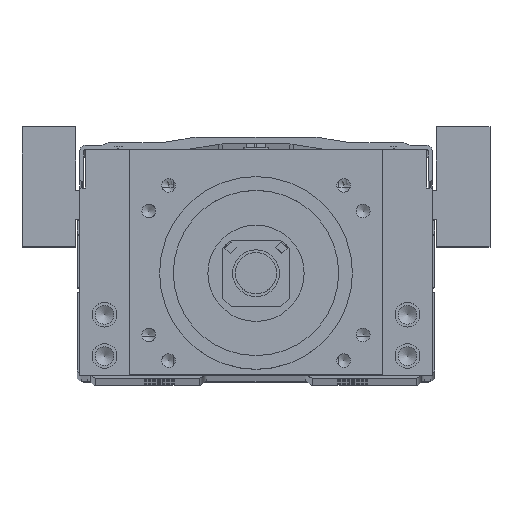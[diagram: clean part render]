
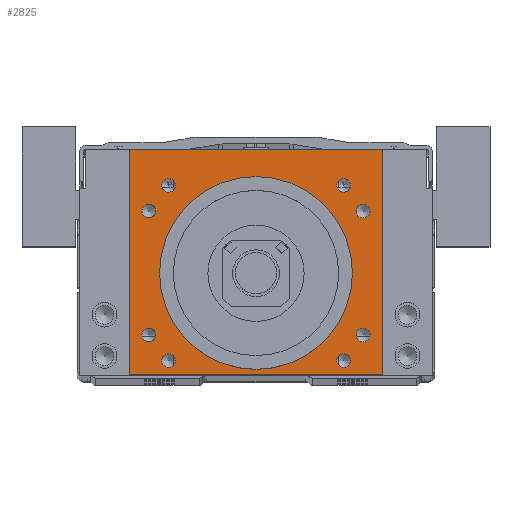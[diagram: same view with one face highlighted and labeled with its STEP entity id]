
A CAD part, top view. The second image highlights one B-rep face of the part: STEP entity #2825.
In plain terms, the highlighted planar face has unit normal (0, 0, 1).
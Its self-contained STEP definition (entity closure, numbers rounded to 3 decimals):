
#2825=ADVANCED_FACE('',(#4618,#4619,#4620,#4621,#4622,#4623,#4624,#4625,
#4626,#4627),#3844,.T.);
#3844=PLANE('',#20425);
#4618=FACE_BOUND('',#5850,.T.);
#4619=FACE_BOUND('',#5851,.T.);
#4620=FACE_BOUND('',#5852,.T.);
#4621=FACE_BOUND('',#5853,.T.);
#4622=FACE_BOUND('',#5854,.T.);
#4623=FACE_BOUND('',#5855,.T.);
#4624=FACE_BOUND('',#5856,.T.);
#4625=FACE_BOUND('',#5857,.T.);
#4626=FACE_BOUND('',#5858,.T.);
#4627=FACE_BOUND('',#5859,.T.);
#5850=EDGE_LOOP('',(#9292,#9293,#9294,#9295));
#5851=EDGE_LOOP('',(#9296));
#5852=EDGE_LOOP('',(#9297));
#5853=EDGE_LOOP('',(#9298));
#5854=EDGE_LOOP('',(#9299));
#5855=EDGE_LOOP('',(#9300));
#5856=EDGE_LOOP('',(#9301));
#5857=EDGE_LOOP('',(#9302));
#5858=EDGE_LOOP('',(#9303));
#5859=EDGE_LOOP('',(#9304));
#7273=CIRCLE('',#20415,35.015);
#7274=CIRCLE('',#20417,2.5);
#7275=CIRCLE('',#20418,2.5);
#7276=CIRCLE('',#20419,2.5);
#7277=CIRCLE('',#20420,2.5);
#7278=CIRCLE('',#20421,2.5);
#7279=CIRCLE('',#20422,2.5);
#7280=CIRCLE('',#20423,2.5);
#7281=CIRCLE('',#20424,2.5);
#9292=ORIENTED_EDGE('',*,*,#15289,.T.);
#9293=ORIENTED_EDGE('',*,*,#14520,.T.);
#9294=ORIENTED_EDGE('',*,*,#15284,.T.);
#9295=ORIENTED_EDGE('',*,*,#15294,.T.);
#9296=ORIENTED_EDGE('',*,*,#15302,.F.);
#9297=ORIENTED_EDGE('',*,*,#15303,.T.);
#9298=ORIENTED_EDGE('',*,*,#15304,.T.);
#9299=ORIENTED_EDGE('',*,*,#15305,.F.);
#9300=ORIENTED_EDGE('',*,*,#15301,.F.);
#9301=ORIENTED_EDGE('',*,*,#15306,.T.);
#9302=ORIENTED_EDGE('',*,*,#15307,.T.);
#9303=ORIENTED_EDGE('',*,*,#15308,.T.);
#9304=ORIENTED_EDGE('',*,*,#15309,.T.);
#12681=VERTEX_POINT('',#27076);
#12682=VERTEX_POINT('',#27078);
#13253=VERTEX_POINT('',#29005);
#13255=VERTEX_POINT('',#29016);
#13261=VERTEX_POINT('',#29040);
#13262=VERTEX_POINT('',#29043);
#13263=VERTEX_POINT('',#29045);
#13264=VERTEX_POINT('',#29047);
#13265=VERTEX_POINT('',#29049);
#13266=VERTEX_POINT('',#29051);
#13267=VERTEX_POINT('',#29053);
#13268=VERTEX_POINT('',#29055);
#13269=VERTEX_POINT('',#29057);
#14520=EDGE_CURVE('',#12682,#12681,#16943,.T.);
#15284=EDGE_CURVE('',#12681,#13253,#17406,.T.);
#15289=EDGE_CURVE('',#13255,#12682,#17411,.T.);
#15294=EDGE_CURVE('',#13253,#13255,#17416,.T.);
#15301=EDGE_CURVE('',#13261,#13261,#7273,.T.);
#15302=EDGE_CURVE('',#13262,#13262,#7274,.T.);
#15303=EDGE_CURVE('',#13263,#13263,#7275,.T.);
#15304=EDGE_CURVE('',#13264,#13264,#7276,.T.);
#15305=EDGE_CURVE('',#13265,#13265,#7277,.T.);
#15306=EDGE_CURVE('',#13266,#13266,#7278,.T.);
#15307=EDGE_CURVE('',#13267,#13267,#7279,.T.);
#15308=EDGE_CURVE('',#13268,#13268,#7280,.T.);
#15309=EDGE_CURVE('',#13269,#13269,#7281,.T.);
#16943=LINE('',#27077,#18392);
#17406=LINE('',#29007,#18855);
#17411=LINE('',#29015,#18860);
#17416=LINE('',#29024,#18865);
#18392=VECTOR('',#21786,1.);
#18855=VECTOR('',#23345,1.);
#18860=VECTOR('',#23356,1.);
#18865=VECTOR('',#23363,1.);
#20415=AXIS2_PLACEMENT_3D('',#29039,#23382,#23383);
#20417=AXIS2_PLACEMENT_3D('',#29042,#23386,#23387);
#20418=AXIS2_PLACEMENT_3D('',#29044,#23388,#23389);
#20419=AXIS2_PLACEMENT_3D('',#29046,#23390,#23391);
#20420=AXIS2_PLACEMENT_3D('',#29048,#23392,#23393);
#20421=AXIS2_PLACEMENT_3D('',#29050,#23394,#23395);
#20422=AXIS2_PLACEMENT_3D('',#29052,#23396,#23397);
#20423=AXIS2_PLACEMENT_3D('',#29054,#23398,#23399);
#20424=AXIS2_PLACEMENT_3D('',#29056,#23400,#23401);
#20425=AXIS2_PLACEMENT_3D('',#29058,#23402,#23403);
#21786=DIRECTION('',(-1.,0.,0.));
#23345=DIRECTION('',(0.,-1.,0.));
#23356=DIRECTION('',(0.,1.,0.));
#23363=DIRECTION('',(1.,0.,0.));
#23382=DIRECTION('',(0.,0.,1.));
#23383=DIRECTION('',(1.,0.,0.));
#23386=DIRECTION('',(0.,0.,1.));
#23387=DIRECTION('',(-1.,0.,0.));
#23388=DIRECTION('',(0.,0.,-1.));
#23389=DIRECTION('',(1.,0.,0.));
#23390=DIRECTION('',(0.,0.,-1.));
#23391=DIRECTION('',(1.,0.,0.));
#23392=DIRECTION('',(0.,0.,1.));
#23393=DIRECTION('',(-1.,0.,0.));
#23394=DIRECTION('',(0.,0.,-1.));
#23395=DIRECTION('',(1.,0.,0.));
#23396=DIRECTION('',(0.,0.,-1.));
#23397=DIRECTION('',(1.,0.,0.));
#23398=DIRECTION('',(0.,0.,-1.));
#23399=DIRECTION('',(1.,0.,0.));
#23400=DIRECTION('',(0.,0.,-1.));
#23401=DIRECTION('',(1.,0.,0.));
#23402=DIRECTION('',(0.,0.,1.));
#23403=DIRECTION('',(-1.,0.,0.));
#27076=CARTESIAN_POINT('',(-46.,83.,100.));
#27077=CARTESIAN_POINT('',(0.,83.,100.));
#27078=CARTESIAN_POINT('',(46.,83.,100.));
#29005=CARTESIAN_POINT('',(-46.,1.,100.));
#29007=CARTESIAN_POINT('',(-46.,38.,100.));
#29015=CARTESIAN_POINT('',(46.,38.,100.));
#29016=CARTESIAN_POINT('',(46.,1.,100.));
#29024=CARTESIAN_POINT('',(0.,1.,100.));
#29039=CARTESIAN_POINT('',(0.,38.,100.));
#29040=CARTESIAN_POINT('',(35.015,38.,100.));
#29042=CARTESIAN_POINT('',(-38.971,15.5,100.));
#29043=CARTESIAN_POINT('',(-41.471,15.5,100.));
#29044=CARTESIAN_POINT('',(38.971,60.5,100.));
#29045=CARTESIAN_POINT('',(41.471,60.5,100.));
#29046=CARTESIAN_POINT('',(38.971,15.5,100.));
#29047=CARTESIAN_POINT('',(41.471,15.5,100.));
#29048=CARTESIAN_POINT('',(-38.971,60.5,100.));
#29049=CARTESIAN_POINT('',(-41.471,60.5,100.));
#29050=CARTESIAN_POINT('',(-31.82,69.82,100.));
#29051=CARTESIAN_POINT('',(-29.32,69.82,100.));
#29052=CARTESIAN_POINT('',(-31.82,6.18,100.));
#29053=CARTESIAN_POINT('',(-29.32,6.18,100.));
#29054=CARTESIAN_POINT('',(31.82,6.18,100.));
#29055=CARTESIAN_POINT('',(34.32,6.18,100.));
#29056=CARTESIAN_POINT('',(31.82,69.82,100.));
#29057=CARTESIAN_POINT('',(34.32,69.82,100.));
#29058=CARTESIAN_POINT('',(0.,38.,100.));
